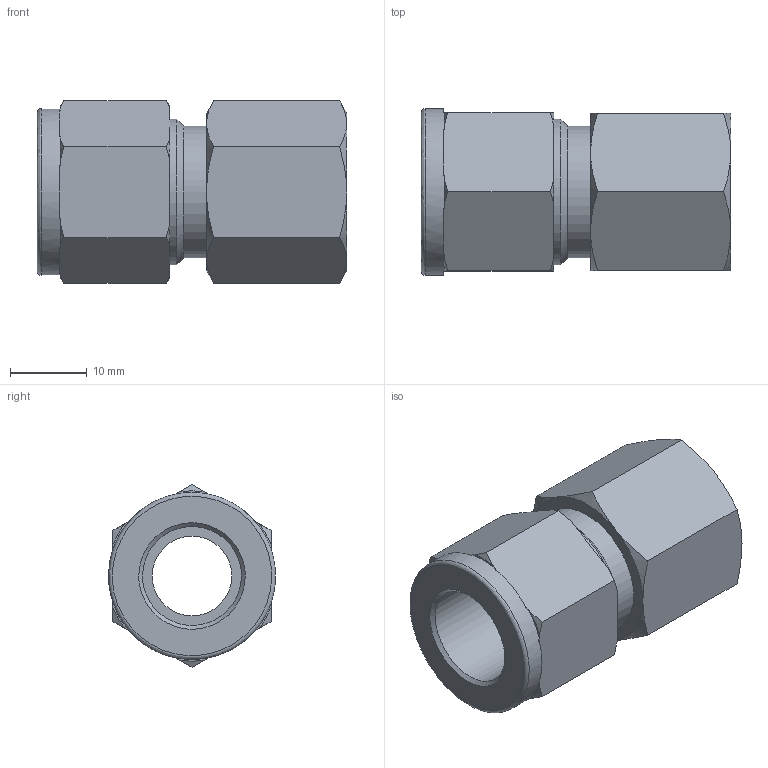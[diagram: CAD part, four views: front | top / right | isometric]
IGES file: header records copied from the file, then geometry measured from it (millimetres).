
Global section: file name: SFC-8-4N; native system: Autodesk Inventor 2016; preprocessor: unknown; author: 배성훈,,11,0; organization: 20151010.055425; date: 20151019.102621; units: millimetre
Bounding box: 40.4 x 21.8 x 23.83 mm (x, y, z)
Volume: 9090.2 mm3; surface area: 5146.5 mm2
Topology: 1 solids, 1 shells, 66 faces, 178 edges, 118 vertices
Faces by surface type: bspline 66
